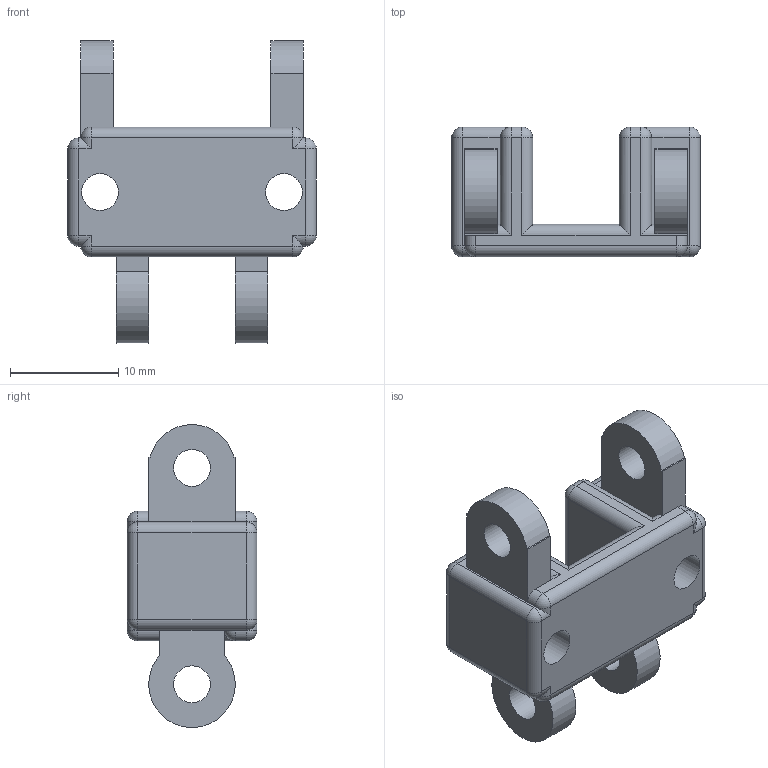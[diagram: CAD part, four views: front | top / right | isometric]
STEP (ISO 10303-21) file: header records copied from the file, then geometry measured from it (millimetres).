
FILE_DESCRIPTION(('Open CASCADE Model'),'2;1');
FILE_NAME('Open CASCADE Shape Model','2026-11-04T08:45:17',('Author'),( 'Open CASCADE'),'Open CASCADE STEP processor 7.8','Open CASCADE 7.8' ,'Unknown');
FILE_SCHEMA(('AUTOMOTIVE_DESIGN { 1 0 10303 214 1 1 1 1 }'));
Length unit declared in the file: millimetre
Products named in the file (1): Open CASCADE STEP translator 7.8 13
Bounding box: 23 x 12 x 27.99 mm (x, y, z)
Volume: 2588.7 mm3; surface area: 2247.4 mm2
Topology: 1 solids, 1 shells, 126 faces, 306 edges, 158 vertices
Faces by surface type: cylinder 64, plane 36, sphere 26
Full cylindrical faces by diameter (mm): 3.4 x6
Entity records: 7404 total; most frequent: CARTESIAN_POINT 1583, DIRECTION 1138, LINE 614, VECTOR 614, ORIENTED_EDGE 564, PCURVE 564, DEFINITIONAL_REPRESENTATION 564, EDGE_CURVE 282
